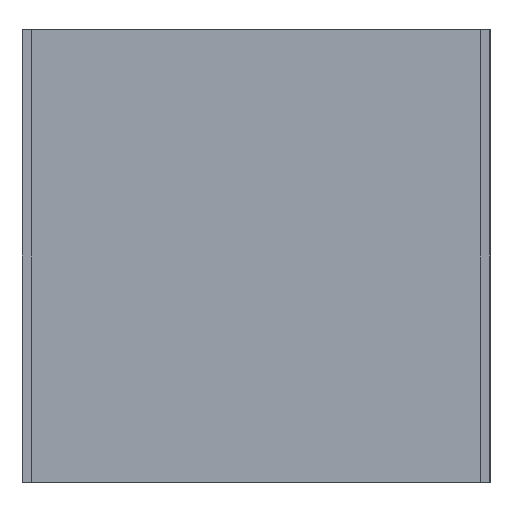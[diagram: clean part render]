
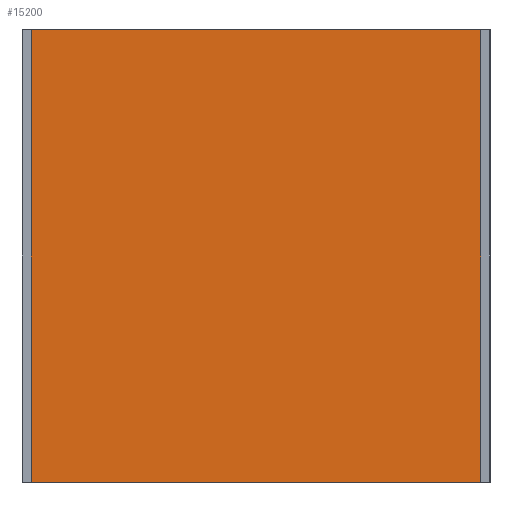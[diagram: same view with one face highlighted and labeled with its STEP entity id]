
A CAD part, left-side view. The second image highlights one B-rep face of the part: STEP entity #15200.
In plain terms, the highlighted planar face has unit normal (-1, 0, 0).
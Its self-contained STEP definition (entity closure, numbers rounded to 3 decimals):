
#170 = CARTESIAN_POINT ( 'NONE',  ( 0., 29.75, 30. ) ) ;
#686 = CARTESIAN_POINT ( 'NONE',  ( 0., -29.75, -30. ) ) ;
#1711 = VECTOR ( 'NONE', #10347, 1000. ) ;
#1906 = LINE ( 'NONE', #170, #1711 ) ;
#1915 = DIRECTION ( 'NONE',  ( 0., 0., 1. ) ) ;
#1933 = EDGE_LOOP ( 'NONE', ( #15241, #7486, #14125, #16379 ) ) ;
#2981 = VERTEX_POINT ( 'NONE', #4166 ) ;
#3324 = DIRECTION ( 'NONE',  ( 0., -1., 0. ) ) ;
#4166 = CARTESIAN_POINT ( 'NONE',  ( 0., -29.75, -30. ) ) ;
#5040 = CARTESIAN_POINT ( 'NONE',  ( 0., 29.75, 30. ) ) ;
#6153 = CARTESIAN_POINT ( 'NONE',  ( 0., 29.75, 30. ) ) ;
#7486 = ORIENTED_EDGE ( 'NONE', *, *, #14891, .T. ) ;
#8783 = VERTEX_POINT ( 'NONE', #11343 ) ;
#9522 = PLANE ( 'NONE',  #13432 ) ;
#9583 = DIRECTION ( 'NONE',  ( 1., 0., 0. ) ) ;
#10347 = DIRECTION ( 'NONE',  ( 0., 0., -1. ) ) ;
#10936 = CARTESIAN_POINT ( 'NONE',  ( 0., -29.75, 30. ) ) ;
#11343 = CARTESIAN_POINT ( 'NONE',  ( 0., 29.75, -30. ) ) ;
#12097 = CARTESIAN_POINT ( 'NONE',  ( 0., -29.75, 30. ) ) ;
#12128 = FACE_OUTER_BOUND ( 'NONE', #1933, .T. ) ;
#12451 = CARTESIAN_POINT ( 'NONE',  ( 0., 29.75, -30. ) ) ;
#13432 = AXIS2_PLACEMENT_3D ( 'NONE', #686, #9583, #1915 ) ;
#14122 = DIRECTION ( 'NONE',  ( 0., 1., 0. ) ) ;
#14125 = ORIENTED_EDGE ( 'NONE', *, *, #15017, .T. ) ;
#14696 = EDGE_CURVE ( 'NONE', #16105, #8783, #1906, .T. ) ;
#14891 = EDGE_CURVE ( 'NONE', #2981, #16283, #16378, .T. ) ;
#14942 = EDGE_CURVE ( 'NONE', #8783, #2981, #15782, .T. ) ;
#15017 = EDGE_CURVE ( 'NONE', #16283, #16105, #15096, .T. ) ;
#15058 = DIRECTION ( 'NONE',  ( 0., 0., 1. ) ) ;
#15073 = VECTOR ( 'NONE', #14122, 1000. ) ;
#15096 = LINE ( 'NONE', #6153, #15073 ) ;
#15200 = ADVANCED_FACE ( 'NONE', ( #12128 ), #9522, .F. ) ;
#15241 = ORIENTED_EDGE ( 'NONE', *, *, #14942, .T. ) ;
#15756 = VECTOR ( 'NONE', #3324, 1000. ) ;
#15782 = LINE ( 'NONE', #12451, #15756 ) ;
#16105 = VERTEX_POINT ( 'NONE', #5040 ) ;
#16283 = VERTEX_POINT ( 'NONE', #12097 ) ;
#16310 = VECTOR ( 'NONE', #15058, 1000. ) ;
#16378 = LINE ( 'NONE', #10936, #16310 ) ;
#16379 = ORIENTED_EDGE ( 'NONE', *, *, #14696, .T. ) ;
